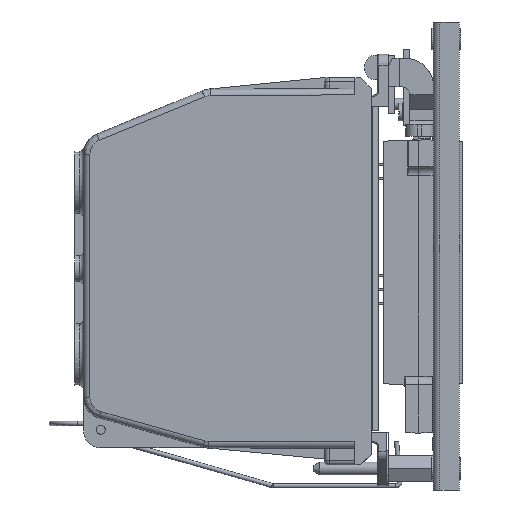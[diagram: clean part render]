
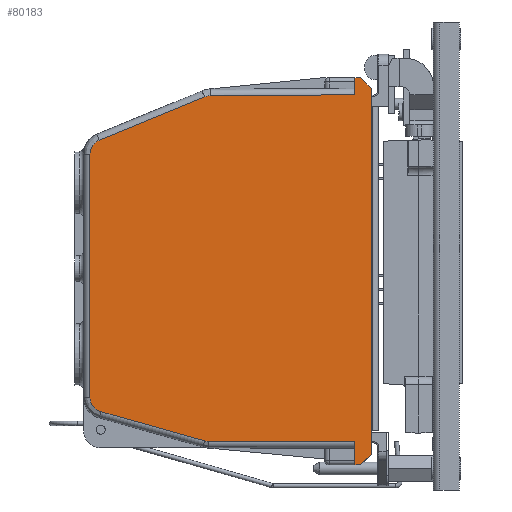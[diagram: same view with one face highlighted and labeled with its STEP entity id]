
A CAD part, left-side view. The second image highlights one B-rep face of the part: STEP entity #80183.
In plain terms, the highlighted planar face has unit normal (-1, 0.007, 0).
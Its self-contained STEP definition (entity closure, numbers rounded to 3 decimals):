
#79769=CARTESIAN_POINT('',(-35.163,34.,11.645));
#79770=VERTEX_POINT('',#79769);
#79777=CARTESIAN_POINT('',(-35.143,36.6,11.645));
#79778=VERTEX_POINT('',#79777);
#79779=CARTESIAN_POINT('',(-35.143,36.6,11.645));
#79780=DIRECTION('',(-0.007,-1.,0.0));
#79781=VECTOR('',#79780,2.6);
#79782=LINE('',#79779,#79781);
#79783=EDGE_CURVE('',#79778,#79770,#79782,.T.);
#79969=CARTESIAN_POINT('',(-35.163,34.,192.145));
#79970=VERTEX_POINT('',#79969);
#79971=CARTESIAN_POINT('',(-35.2,29.,187.145));
#79972=VERTEX_POINT('',#79971);
#79973=CARTESIAN_POINT('',(-35.163,34.,192.145));
#79974=DIRECTION('',(-0.005,-0.707,-0.707));
#79975=VECTOR('',#79974,7.071);
#79976=LINE('',#79973,#79975);
#79977=EDGE_CURVE('',#79970,#79972,#79976,.T.);
#80010=CARTESIAN_POINT('',(-35.2,29.,16.645));
#80011=VERTEX_POINT('',#80010);
#80012=CARTESIAN_POINT('',(-35.2,29.,16.645));
#80013=DIRECTION('',(0.0,0.0,1.0));
#80014=VECTOR('',#80013,170.5);
#80015=LINE('',#80012,#80014);
#80016=EDGE_CURVE('',#80011,#79972,#80015,.T.);
#80069=CARTESIAN_POINT('',(-34.732,91.725,102.269));
#80070=DIRECTION('',(1.,-0.007,0.));
#80071=DIRECTION('',(0.0,0.0,-1.0));
#80072=AXIS2_PLACEMENT_3D('',#80069,#80070,#80071);
#80073=PLANE('',#80072);
#80074=ORIENTED_EDGE('',*,*,#79977,.F.);
#80075=CARTESIAN_POINT('',(-35.143,36.6,192.145));
#80076=VERTEX_POINT('',#80075);
#80077=CARTESIAN_POINT('',(-35.143,36.6,192.145));
#80078=DIRECTION('',(-0.007,-1.,0.0));
#80079=VECTOR('',#80078,2.6);
#80080=LINE('',#80077,#80079);
#80081=EDGE_CURVE('',#80076,#79970,#80080,.T.);
#80082=ORIENTED_EDGE('',*,*,#80081,.F.);
#80083=CARTESIAN_POINT('',(-35.143,36.6,184.096));
#80084=VERTEX_POINT('',#80083);
#80085=CARTESIAN_POINT('',(-35.143,36.6,184.096));
#80086=DIRECTION('',(0.0,0.0,1.0));
#80087=VECTOR('',#80086,8.049);
#80088=LINE('',#80085,#80087);
#80089=EDGE_CURVE('',#80084,#80076,#80088,.T.);
#80090=ORIENTED_EDGE('',*,*,#80089,.F.);
#80091=CARTESIAN_POINT('',(-34.64,104.056,183.658));
#80092=VERTEX_POINT('',#80091);
#80093=CARTESIAN_POINT('',(-34.64,104.056,183.658));
#80094=DIRECTION('',(-0.007,-1.,0.006));
#80095=VECTOR('',#80094,67.459);
#80096=LINE('',#80093,#80095);
#80097=EDGE_CURVE('',#80092,#80084,#80096,.T.);
#80098=ORIENTED_EDGE('',*,*,#80097,.F.);
#80099=CARTESIAN_POINT('',(-34.62,106.679,183.13));
#80100=VERTEX_POINT('',#80099);
#80101=CARTESIAN_POINT('',(-34.64,104.011,176.658));
#80102=DIRECTION('',(1.,-0.007,0.));
#80103=DIRECTION('',(0.007,1.,0.));
#80104=AXIS2_PLACEMENT_3D('',#80101,#80102,#80103);
#80105=ELLIPSE('',#80104,7.,7.0);
#80106=EDGE_CURVE('',#80100,#80092,#80105,.T.);
#80107=ORIENTED_EDGE('',*,*,#80106,.F.);
#80108=CARTESIAN_POINT('',(-34.254,155.69,162.923));
#80109=VERTEX_POINT('',#80108);
#80110=CARTESIAN_POINT('',(-34.254,155.69,162.923));
#80111=DIRECTION('',(-0.007,-0.924,0.381));
#80112=VECTOR('',#80111,53.015);
#80113=LINE('',#80110,#80112);
#80114=EDGE_CURVE('',#80109,#80100,#80113,.T.);
#80115=ORIENTED_EDGE('',*,*,#80114,.F.);
#80116=CARTESIAN_POINT('',(-34.222,160.022,156.452));
#80117=VERTEX_POINT('',#80116);
#80118=CARTESIAN_POINT('',(-34.274,153.022,156.452));
#80119=DIRECTION('',(1.,-0.007,0.));
#80120=DIRECTION('',(0.007,1.,0.));
#80121=AXIS2_PLACEMENT_3D('',#80118,#80119,#80120);
#80122=ELLIPSE('',#80121,7.,7.);
#80123=EDGE_CURVE('',#80117,#80109,#80122,.T.);
#80124=ORIENTED_EDGE('',*,*,#80123,.F.);
#80125=CARTESIAN_POINT('',(-34.222,160.022,43.225));
#80126=VERTEX_POINT('',#80125);
#80127=CARTESIAN_POINT('',(-34.222,160.022,43.225));
#80128=DIRECTION('',(0.0,0.0,1.0));
#80129=VECTOR('',#80128,113.227);
#80130=LINE('',#80127,#80129);
#80131=EDGE_CURVE('',#80126,#80117,#80130,.T.);
#80132=ORIENTED_EDGE('',*,*,#80131,.F.);
#80133=CARTESIAN_POINT('',(-34.26,154.914,36.485));
#80134=VERTEX_POINT('',#80133);
#80135=CARTESIAN_POINT('',(-34.274,153.022,43.225));
#80136=DIRECTION('',(1.,-0.007,0.));
#80137=DIRECTION('',(0.007,1.,0.));
#80138=AXIS2_PLACEMENT_3D('',#80135,#80136,#80137);
#80139=ELLIPSE('',#80138,7.,7.);
#80140=EDGE_CURVE('',#80134,#80126,#80139,.T.);
#80141=ORIENTED_EDGE('',*,*,#80140,.F.);
#80142=CARTESIAN_POINT('',(-34.621,106.518,22.901));
#80143=VERTEX_POINT('',#80142);
#80144=CARTESIAN_POINT('',(-34.621,106.518,22.901));
#80145=DIRECTION('',(0.007,0.963,0.27));
#80146=VECTOR('',#80145,50.268);
#80147=LINE('',#80144,#80146);
#80148=EDGE_CURVE('',#80143,#80134,#80147,.T.);
#80149=ORIENTED_EDGE('',*,*,#80148,.F.);
#80150=CARTESIAN_POINT('',(-34.635,104.654,22.64));
#80151=VERTEX_POINT('',#80150);
#80152=CARTESIAN_POINT('',(-34.636,104.626,29.64));
#80153=DIRECTION('',(1.,-0.007,0.));
#80154=DIRECTION('',(0.007,1.,0.));
#80155=AXIS2_PLACEMENT_3D('',#80152,#80153,#80154);
#80156=ELLIPSE('',#80155,7.,7.);
#80157=EDGE_CURVE('',#80151,#80143,#80156,.T.);
#80158=ORIENTED_EDGE('',*,*,#80157,.F.);
#80159=CARTESIAN_POINT('',(-35.143,36.6,22.375));
#80160=VERTEX_POINT('',#80159);
#80161=CARTESIAN_POINT('',(-35.143,36.6,22.375));
#80162=DIRECTION('',(0.007,1.,0.004));
#80163=VECTOR('',#80162,68.056);
#80164=LINE('',#80161,#80163);
#80165=EDGE_CURVE('',#80160,#80151,#80164,.T.);
#80166=ORIENTED_EDGE('',*,*,#80165,.F.);
#80167=CARTESIAN_POINT('',(-35.143,36.6,11.645));
#80168=DIRECTION('',(0.0,0.0,1.0));
#80169=VECTOR('',#80168,10.73);
#80170=LINE('',#80167,#80169);
#80171=EDGE_CURVE('',#79778,#80160,#80170,.T.);
#80172=ORIENTED_EDGE('',*,*,#80171,.F.);
#80173=ORIENTED_EDGE('',*,*,#79783,.T.);
#80174=CARTESIAN_POINT('',(-35.2,29.,16.645));
#80175=DIRECTION('',(0.005,0.707,-0.707));
#80176=VECTOR('',#80175,7.071);
#80177=LINE('',#80174,#80176);
#80178=EDGE_CURVE('',#80011,#79770,#80177,.T.);
#80179=ORIENTED_EDGE('',*,*,#80178,.F.);
#80180=ORIENTED_EDGE('',*,*,#80016,.T.);
#80181=EDGE_LOOP('',(#80074,#80082,#80090,#80098,#80107,#80115,#80124,#80132,#80141,#80149,#80158,#80166,#80172,#80173,#80179,#80180));
#80182=FACE_OUTER_BOUND('',#80181,.T.);
#80183=ADVANCED_FACE('',(#80182),#80073,.F.);
